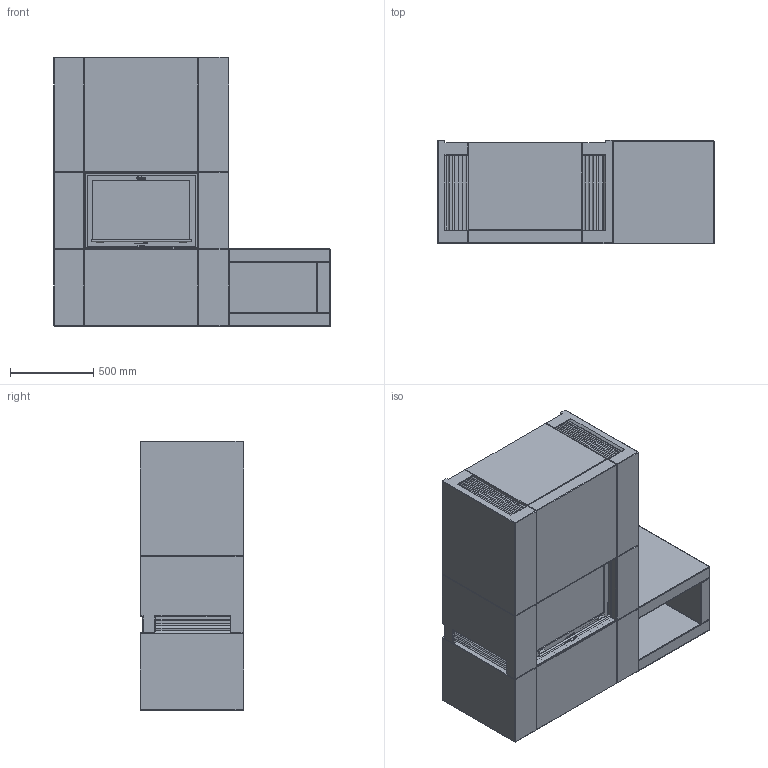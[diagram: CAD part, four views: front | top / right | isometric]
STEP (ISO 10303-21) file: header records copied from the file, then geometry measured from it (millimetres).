
FILE_DESCRIPTION( ( 'Unknown' ), '1' );
FILE_NAME( 'C:/Documents and Settings/hapierrea/Application Data/Unigraphics Solutions/Solid Edge/Insight/insight/Insight/interior models/C11C p Wood Storage R Assembly.stp', '2010', ( 'Unknown' ), ( 'NIBE AB' ), 'PSStep 11.0', 'Solid Edge', ' ' );
FILE_SCHEMA( ( 'AUTOMOTIVE_DESIGN { 1 0 10303 214 1 1 1 1 }' ) );
Length unit declared in the file: millimetre
Products named in the file (28): Assem1; Fire i10; Grate i10 i20; Grills C11; Front set C11C; Insert i10; Firebox insulation i10; Door i10; Door frame i10; Concrete set C11-oa0; Wood storage right C11; Glass i10
Bounding box: 1660 x 620 x 1618.01 mm (x, y, z)
Surface area: 52546933.2 mm2
Topology: 54 solids, 54 shells, 3272 faces, 8492 edges, 5582 vertices
Faces by surface type: plane 2398, extrusion 570, cylinder 280, cone 20, sphere 4
Full cylindrical faces by diameter (mm): 10 x32, 12 x2, 100 x6, 200 x6
Entity records: 69958 total; most frequent: CARTESIAN_POINT 18206, ORIENTED_EDGE 8440, DIRECTION 6610, EDGE_CURVE 4220, VECTOR 2794, VERTEX_POINT 2790, LINE 2509, AXIS2_PLACEMENT_3D 1908
